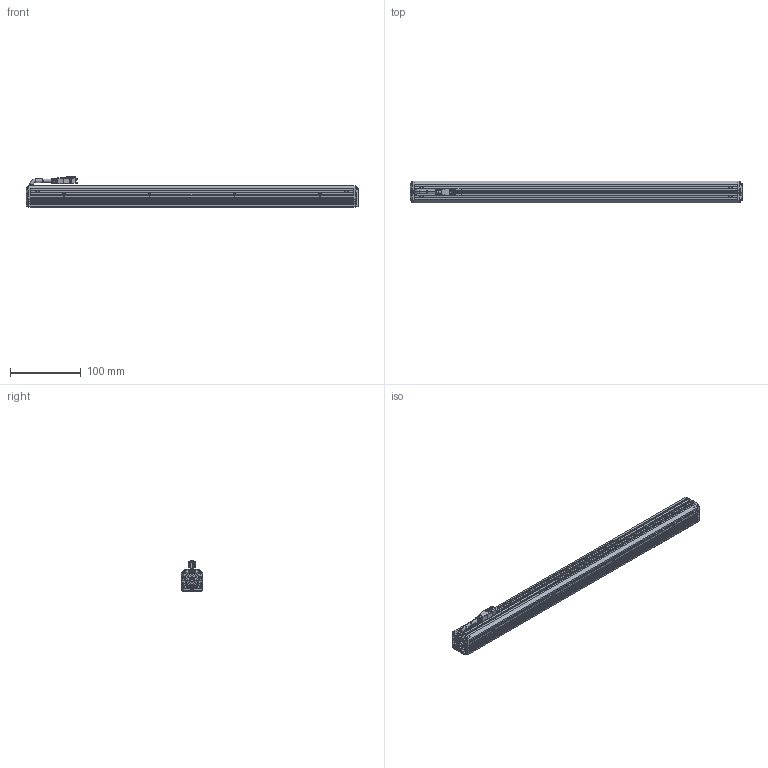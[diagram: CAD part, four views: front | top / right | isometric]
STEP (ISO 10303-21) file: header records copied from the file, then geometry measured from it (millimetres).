
FILE_DESCRIPTION((''),'2;1');
FILE_NAME('MV-LLDS-H-500-30-W-PL_ASM','2024-04-08T14:16:01',('huguozhe'),(''),'CREO PARAMETRIC BY PTC INC, 2020044','CREO PARAMETRIC BY PTC INC, 2020044','');
FILE_SCHEMA(('AUTOMOTIVE_DESIGN { 1 0 10303 214 1 1 1 1 }'));
Length unit declared in the file: millimetre
Products named in the file (15): DE-15-001266; DE-15-001265_ASM; DE-15-000510; DE-15-000509_ASM; DE-12-002271; TIP-M3X4-4_5X5-SO-ET-07061033; DE-12-002271_ASM; DE-12-001579; SC-KM2X6-BNI-GB819; XIANLAN_HEAD; CABLE_HEAD; CABLE_HEAD_ASM_ASM; 190100852; SC-PM2X6B-JMP; MV-LLDS-H-500-30-W-PL_ASM
Assembly tree (33 placements, depth 3):
  MV-LLDS-H-500-30-W-PL_ASM
    DE-15-001265_ASM
      DE-15-001266
    DE-15-000509_ASM
      DE-15-000510
    DE-12-002271_ASM  x2
      DE-12-002271
      TIP-M3X4-4_5X5-SO-ET-07061033
    DE-12-001579
    SC-KM2X6-BNI-GB819  x4
    CABLE_HEAD_ASM_ASM
      XIANLAN_HEAD
      CABLE_HEAD
    190100852  x8
    SC-PM2X6B-JMP  x8
Bounding box: 468 x 30 x 42.65 mm (x, y, z)
Volume: 322809 mm3; surface area: 175855 mm2
Topology: 31 solids, 67 shells, 2798 faces, 7224 edges, 4549 vertices
Faces by surface type: plane 1344, cylinder 610, bspline 472, cone 313, torus 50, sphere 8, extrusion 1
Entity records: 48109 total; most frequent: CARTESIAN_POINT 11236, ORIENTED_EDGE 6166, DIRECTION 5950, EDGE_CURVE 3115, VERTEX_POINT 1996, AXIS2_PLACEMENT_3D 1984, VECTOR 1982, LINE 1981
